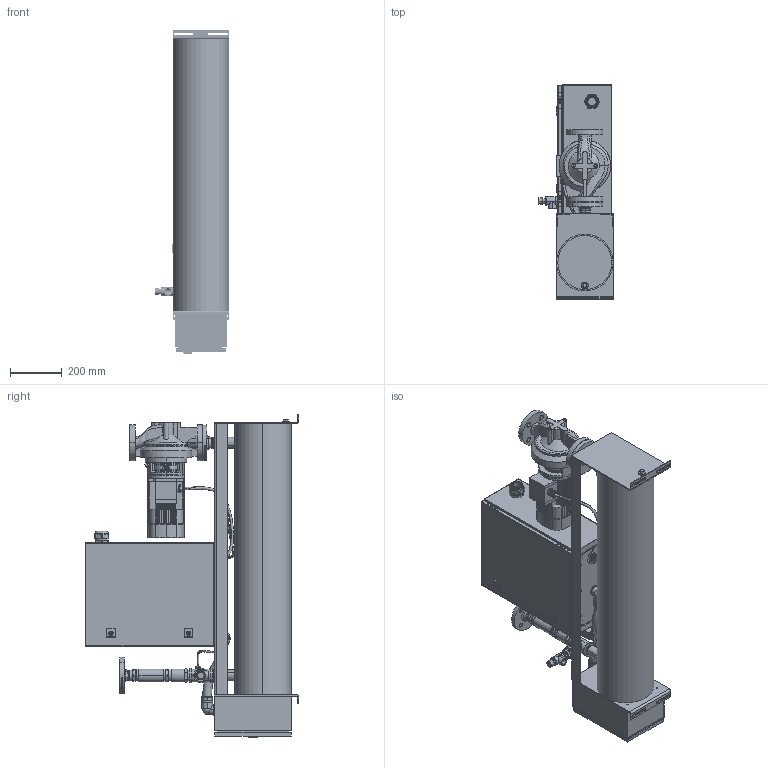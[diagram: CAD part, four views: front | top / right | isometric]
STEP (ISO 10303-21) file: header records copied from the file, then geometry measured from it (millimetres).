
FILE_DESCRIPTION (( 'STEP AP214' ), '1' );
FILE_NAME ('top start 18-84 kw 500w.STEP', '2014-02-03T09:21:45', ( '' ), ( '' ), 'SwSTEP 2.0', 'SolidWorks 2013', '' );
FILE_SCHEMA (( 'AUTOMOTIVE_DESIGN' ));
Length unit declared in the file: millimetre
Products named in the file (55): heating element; B_n__Inox_452283-20_2_03; WPDB_70_16_1_10_1939460000_2_14b; backflow preventer; AE_1035_500__2__2_14atop star 18 82; tole chicane; 1597020-R; 370_27_27; B_n__Inox_652194-6_2_03; Pièce57^ensemble res et cuve; 467266; AE_1045_500__2__2_14a 18 82; HI_1XXX_04_00top star 18 82; tole cote fermeture; 1597020-C; safety valve 34; HI_1XXX_01_04 18 82; top start 18-84 kw 500w; Pièce56^ensemble res et cuve; M40-Cap; HI_1045_02_07 (2) 18 82; HI_1XXX_01_05top star 18 82; tole cote resistance; 1597020-B; mrf_318_55; HI_1045_01_00 (2) 18 82; mamelon long a souder_trouee; ntc lps xxs; M40 (Ø32)-Std_Body; HI_1035_01_01 (2)top star 18 82; 1597020-A; mrf_318_50; mamelon long a souder_DN 032; Pièce50^ensemble res et cuve; Pièce47^ensemble res et cuve; HI_1XXX_04_04 18 82; HI_1XXX_01_04top star 18 82; tube 219 5; fiche flow switch; 452484-32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
Assembly tree (71 placements, depth 3):
  top start 18-84 kw 500w
    ensemble resistance
      heating element  x7
    ensemble cuve rechauffeur
      tube 219 5
      tole cote resistance
      tole cote fermeture
      tole chicane  x3
      corniere 50 G
      corniere 50 D
      mamelon long a souder_DN 032
      mamelon long a souder_trouee
      B_n__Inox_652194-6_2_03
    AE_1035_500__2__2_14atop star 18 82
      HI_1035_01_00 (2)top star 18 82
      HI_1XXX_01_04top star 18 82  x2
      HI_1035_01_01 (2)top star 18 82
      HI_1XXX_01_05top star 18 82
      HI_1XXX_04_00top star 18 82
    TP_32-180_2_MG_71B2_B14-14_C_3PH_0.55KW
    din 2633 pn16_032  x2
    AE_1045_500__2__2_14a 18 82
      HI_1045_01_00 (2) 18 82
      HI_1XXX_01_04 18 82  x2
      HI_1045_01_01 (2) 18 82
      HI_1XXX_01_05 18 82  x2
      HI_1XXX_04_04 18 82
      HI_1045_02_07 (2) 18 82
    backflow preventer
    dmm_116_42  x3
    452484-32
    mrf_318_50
    mrf_318_55
    safety valve 34
    370_27_27
    mamelon long a souder_DN 032
    TP_32-230_2_MG_80A2_B14-19_H3_3PH_0.75KW1
    _VWD-M329GT_2_03  x2
    Pièce47^ensemble res et cuve
    467266
      M40 (Ø32)-Std_Body
      M40-Cap
    WPDB_70_16_1_10_1939460000_2_14b
    flow switch
    fiche flow switch
    462614  x3
      1597020-A
      1597020-B
      1597020-C
      1597020-R
    Pièce49^ensemble res et cuve
    ntc lps xxs
    Pièce56^ensemble res et cuve
    Pièce57^ensemble res et cuve
    B_n__Inox_452283-20_2_03
  Pièce50^ensemble res et cuve
Bounding box: 287.55 x 827.54 x 1251 mm (x, y, z)
Volume: 24888827.4 mm3; surface area: 6772904.7 mm2
Topology: 72 solids, 72 shells, 4273 faces, 11243 edges, 7354 vertices
Faces by surface type: plane 2059, cylinder 1217, bspline 682, cone 277, sphere 20, torus 18
Entity records: 189911 total; most frequent: CARTESIAN_POINT 90825, ORIENTED_EDGE 15540, DIRECTION 13888, EDGE_CURVE 7770, VERTEX_POINT 5081, AXIS2_PLACEMENT_3D 4957, LINE 3974, VECTOR 3974
